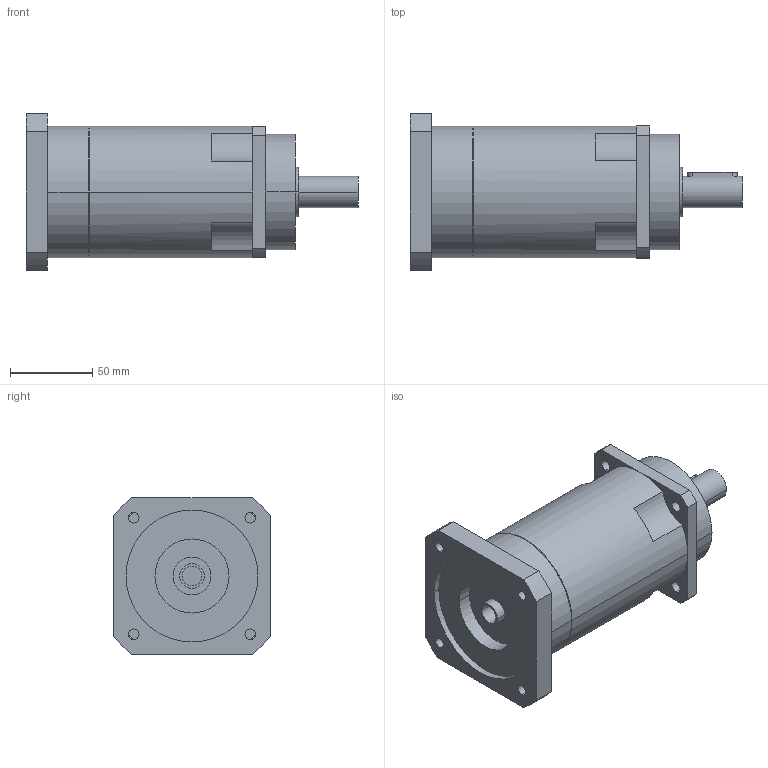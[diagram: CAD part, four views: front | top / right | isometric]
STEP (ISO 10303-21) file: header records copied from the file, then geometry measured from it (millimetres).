
FILE_DESCRIPTION(('CoCreate Modeling STEP Export'),'2;1');
FILE_NAME('GPR100_ig-48-64-80-100-120-144-180-216_19_B5_12_P06.stp','2014-08-26T11:53:53',(''),(''),'CoCreate Modeling STEP processor for AP214 (Solid Model)','CoCreate Modeling 16.00C 25-Feb-2009 (C) Parametric Technology GmbH','');
FILE_SCHEMA(('AUTOMOTIVE_DESIGN { 1 0 10303 214 1 1 1 1 }'));
Length unit declared in the file: millimetre
Products named in the file (2): GPR100_ig-48-64-80-100-120-144-180-216_19_B5_12_P06
Assembly tree (1 placements, depth 2):
  GPR100_ig-48-64-80-100-120-144-180-216_19_B5_12_P06
    GPR100_ig-48-64-80-100-120-144-180-216_19_B5_12_P06
Bounding box: 201.4 x 95 x 95 mm (x, y, z)
Volume: 824345.7 mm3; surface area: 70793.7 mm2
Topology: 1 solids, 1 shells, 89 faces, 245 edges, 167 vertices
Faces by surface type: cylinder 52, plane 31, cone 6
Entity records: 2602 total; most frequent: ORIENTED_EDGE 486, CARTESIAN_POINT 472, DIRECTION 386, EDGE_CURVE 243, VERTEX_POINT 167, AXIS2_PLACEMENT_3D 145, EDGE_LOOP 116, VECTOR 96
